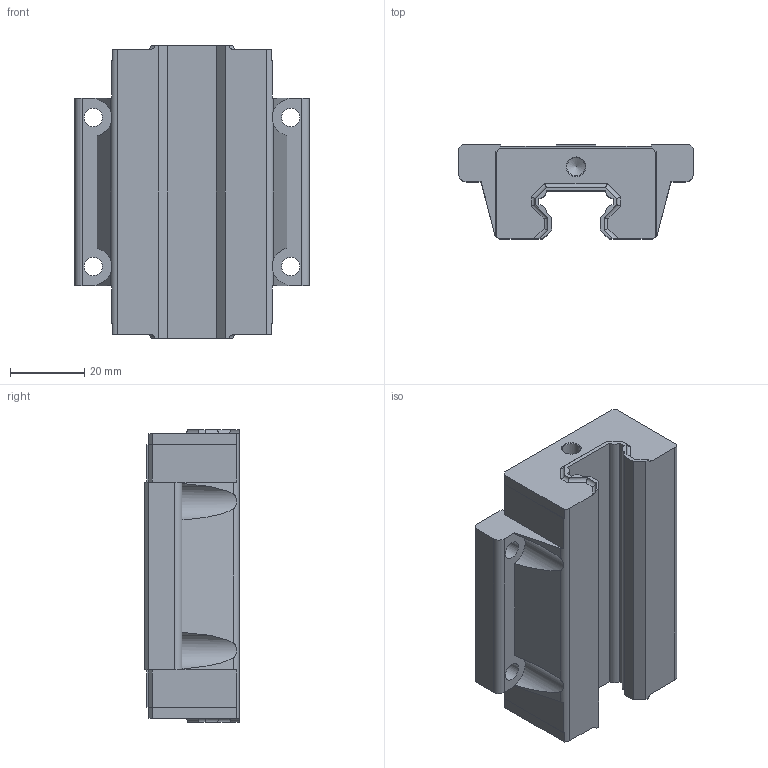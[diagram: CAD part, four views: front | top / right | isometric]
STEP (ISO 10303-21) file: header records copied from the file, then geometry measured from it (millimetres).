
FILE_DESCRIPTION(/* description */ (''),/* implementation_level */ '2;1');
FILE_NAME(/* name */ 'C:\Users\daviddillkoetter\ownCloud\Kamp und Kötter\Artikel\KPN_Profilführungen\Step\KPNW-20X-FS.stp',/* time_stamp */ '2021-01-27T16:39:28+01:00',/* author */ ('daviddillkoetter'),/* organization */ (''),/* preprocessor_version */ 'ST-DEVELOPER v18.1',/* originating_system */ 'Autodesk Inventor 2021',/* authorisation */ '');
FILE_SCHEMA (('AUTOMOTIVE_DESIGN { 1 0 10303 214 3 1 1 }'));
Length unit declared in the file: millimetre
Products named in the file (1): KPNW-F
Bounding box: 63 x 25.4 x 78.5 mm (x, y, z)
Volume: 77477.8 mm3; surface area: 17628.5 mm2
Topology: 1 solids, 1 shells, 116 faces, 336 edges, 222 vertices
Faces by surface type: plane 68, cylinder 40, cone 8
Full cylindrical faces by diameter (mm): 4.917 x6
Entity records: 4024 total; most frequent: CARTESIAN_POINT 743, ORIENTED_EDGE 668, DIRECTION 644, EDGE_CURVE 334, LINE 250, VECTOR 250, VERTEX_POINT 222, AXIS2_PLACEMENT_3D 197
